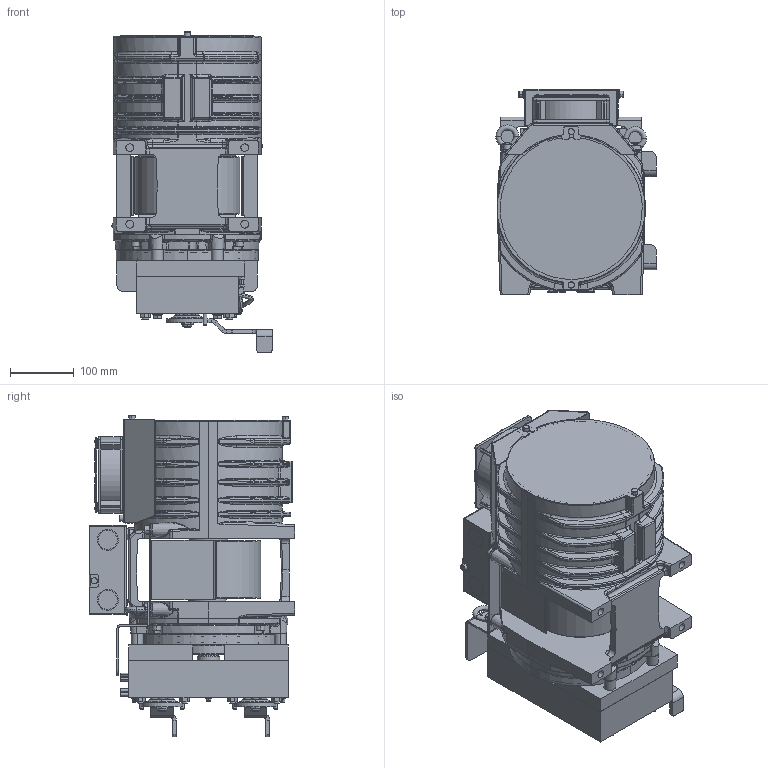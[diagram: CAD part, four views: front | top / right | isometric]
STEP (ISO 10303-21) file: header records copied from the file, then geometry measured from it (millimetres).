
FILE_DESCRIPTION((''),'2;1');
FILE_NAME('00358108_ASM','2020-01-16T',('furlanis'),('Sicor spa'),'CREO PARAMETRIC BY PTC INC, 2017170','CREO PARAMETRIC BY PTC INC, 2017170','');
FILE_SCHEMA(('CONFIG_CONTROL_DESIGN'));
Products named in the file (4): 00347963_SW0001; 00247288; 00242768; 00358108_ASM
Assembly tree (4 placements, depth 2):
  00358108_ASM
    00347963_SW0001
    00247288
    00242768  x2
Bounding box: 251 x 322 x 503.02 mm (x, y, z)
Volume: 1240369.6 mm3; surface area: 1633695.5 mm2
Topology: 3 solids, 289 shells, 3455 faces, 11869 edges, 8394 vertices
Faces by surface type: plane 1462, cylinder 834, bspline 570, torus 330, cone 215, sphere 44
Entity records: 191010 total; most frequent: CARTESIAN_POINT 97371, ORIENTED_EDGE 18585, DIRECTION 17708, EDGE_CURVE 11741, VERTEX_POINT 8346, VECTOR 6178, LINE 6178, AXIS2_PLACEMENT_3D 5765
